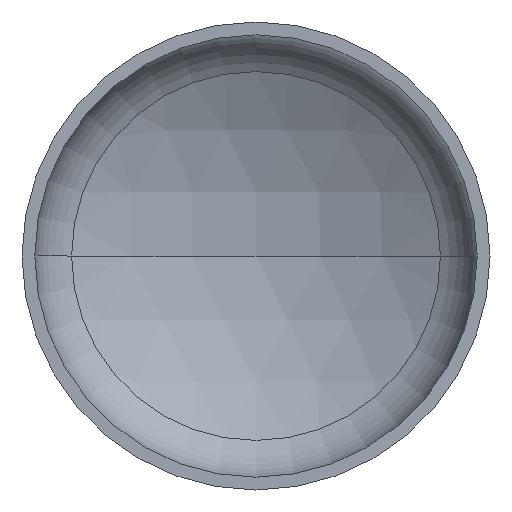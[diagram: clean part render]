
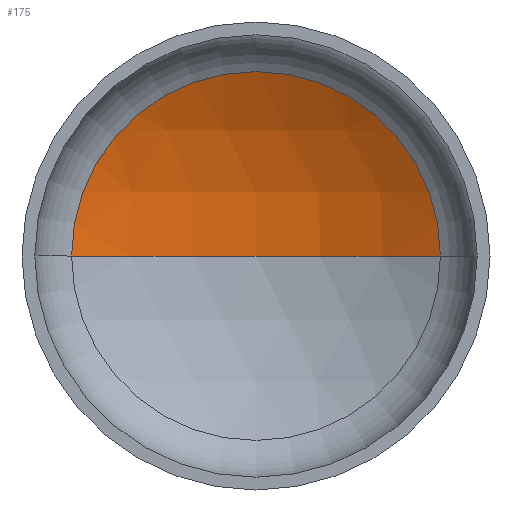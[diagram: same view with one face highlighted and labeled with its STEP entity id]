
A CAD part, front view. The second image highlights one B-rep face of the part: STEP entity #175.
In plain terms, the highlighted spherical face has radius 175 mm.
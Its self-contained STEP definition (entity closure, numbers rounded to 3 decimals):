
#5 = CARTESIAN_POINT ( 'NONE',  ( -86.321, 49.576, 0. ) ) ;
#13 = DIRECTION ( 'NONE',  ( 1., 0., 0. ) ) ;
#19 = AXIS2_PLACEMENT_3D ( 'NONE', #264, #232, #230 ) ;
#25 = EDGE_LOOP ( 'NONE', ( #162, #165, #100 ) ) ;
#27 = AXIS2_PLACEMENT_3D ( 'NONE', #128, #168, #192 ) ;
#28 = AXIS2_PLACEMENT_3D ( 'NONE', #335, #183, #77 ) ;
#30 = AXIS2_PLACEMENT_3D ( 'NONE', #305, #378, #13 ) ;
#77 = DIRECTION ( 'NONE',  ( -1., 0., 0. ) ) ;
#93 = EDGE_CURVE ( 'NONE', #173, #103, #402, .T. ) ;
#94 = SPHERICAL_SURFACE ( 'NONE', #19, 175. ) ;
#98 = EDGE_CURVE ( 'NONE', #171, #173, #222, .T. ) ;
#99 = EDGE_CURVE ( 'NONE', #171, #103, #107, .T. ) ;
#100 = ORIENTED_EDGE ( 'NONE', *, *, #93, .T. ) ;
#103 = VERTEX_POINT ( 'NONE', #5 ) ;
#107 = CIRCLE ( 'NONE', #27, 175. ) ;
#128 = CARTESIAN_POINT ( 'NONE',  ( 0., -102.653, 0. ) ) ;
#162 = ORIENTED_EDGE ( 'NONE', *, *, #99, .F. ) ;
#165 = ORIENTED_EDGE ( 'NONE', *, *, #98, .T. ) ;
#168 = DIRECTION ( 'NONE',  ( 0., 0., 1. ) ) ;
#171 = VERTEX_POINT ( 'NONE', #310 ) ;
#173 = VERTEX_POINT ( 'NONE', #205 ) ;
#175 = ADVANCED_FACE ( 'NONE', ( #389 ), #94, .F. ) ;
#183 = DIRECTION ( 'NONE',  ( 0., 0., -1. ) ) ;
#192 = DIRECTION ( 'NONE',  ( 1., 0., 0. ) ) ;
#205 = CARTESIAN_POINT ( 'NONE',  ( 86.321, 49.576, 0. ) ) ;
#222 = CIRCLE ( 'NONE', #28, 175. ) ;
#230 = DIRECTION ( 'NONE',  ( -1., 0., 0. ) ) ;
#232 = DIRECTION ( 'NONE',  ( 0., 0., -1. ) ) ;
#264 = CARTESIAN_POINT ( 'NONE',  ( 0., -102.653, 0. ) ) ;
#305 = CARTESIAN_POINT ( 'NONE',  ( 0., 49.576, 0. ) ) ;
#310 = CARTESIAN_POINT ( 'NONE',  ( 0., 72.347, 0. ) ) ;
#335 = CARTESIAN_POINT ( 'NONE',  ( 0., -102.653, 0. ) ) ;
#378 = DIRECTION ( 'NONE',  ( 0., -1., 0. ) ) ;
#389 = FACE_OUTER_BOUND ( 'NONE', #25, .T. ) ;
#402 = CIRCLE ( 'NONE', #30, 86.321 ) ;
